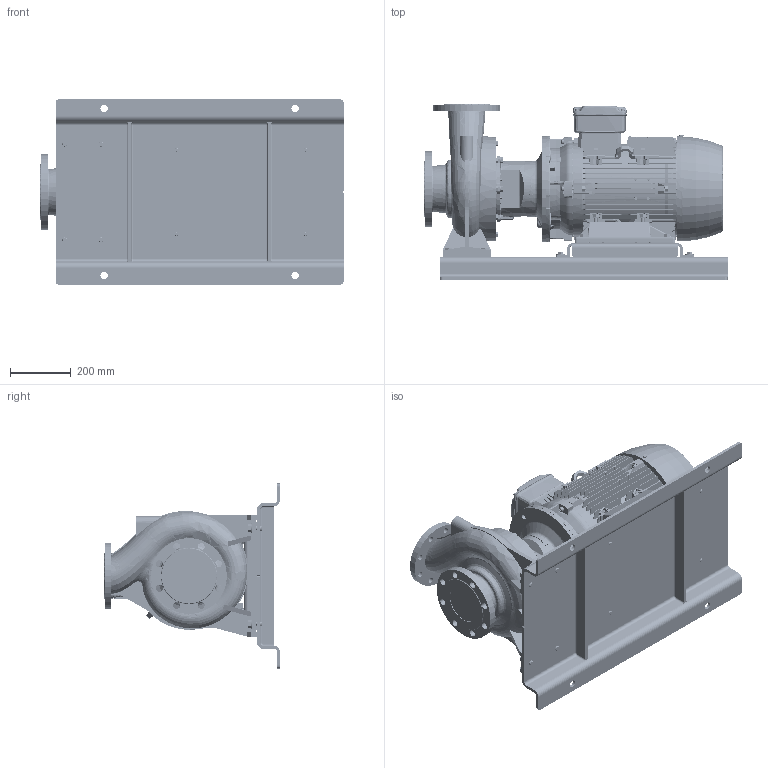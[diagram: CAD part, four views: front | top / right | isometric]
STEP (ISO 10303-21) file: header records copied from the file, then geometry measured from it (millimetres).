
FILE_DESCRIPTION (( 'STEP AP214' ), '1' );
FILE_NAME ('GSD4 100-250_18.5_(180ML)_W21_BP.STEP', '2026-05-08T05:58:36', ( '' ), ( '' ), 'SwSTEP 2.0', 'SolidWorks 2024', '' );
FILE_SCHEMA (( 'AUTOMOTIVE_DESIGN' ));
Length unit declared in the file: millimetre
Products named in the file (13): 100-250-180M_L_ﾃﾞﾌｫﾙﾄ; Parametric Flat Washer_M16; Parametric bolt_SFT-A297B; N7S3 GSDA-734 F1-1832947-00; Parametric bolt and washer_SFT-A297B; Parametric Flat Washer_M12; GSD4 100-250_18.5_(180ML)_W21_BP; 180M_L ALIE3_W21T_B35; Parametric bolt_SFT-A305B; Parametric bolt and washer_SFT-A305B; Parametric bolt_SFT-A353B; Parametric bolt and washer_SFT-A353B; CGS11-5262
Assembly tree (22 placements, depth 3):
  GSD4 100-250_18.5_(180ML)_W21_BP
    100-250-180M_L_ﾃﾞﾌｫﾙﾄ
    N7S3 GSDA-734 F1-1832947-00
    CGS11-5262
    Parametric bolt and washer_SFT-A353B  x4
      Parametric bolt_SFT-A353B
      Parametric Flat Washer_M16
    Parametric bolt and washer_SFT-A297B  x4
      Parametric bolt_SFT-A297B
      Parametric Flat Washer_M12
    Parametric bolt and washer_SFT-A305B  x4
      Parametric bolt_SFT-A305B
      Parametric Flat Washer_M12
    180M_L ALIE3_W21T_B35
Bounding box: 1000 x 580 x 610 mm (x, y, z)
Volume: 78746752 mm3; surface area: 5402755.9 mm2
Topology: 54 solids, 54 shells, 6713 faces, 17411 edges, 11261 vertices
Faces by surface type: plane 3923, cylinder 1351, cone 660, bspline 484, torus 279, sphere 16
Entity records: 251731 total; most frequent: CARTESIAN_POINT 107334, ORIENTED_EDGE 31814, DIRECTION 26766, EDGE_CURVE 15907, VERTEX_POINT 10292, LINE 9912, VECTOR 9912, AXIS2_PLACEMENT_3D 8427
